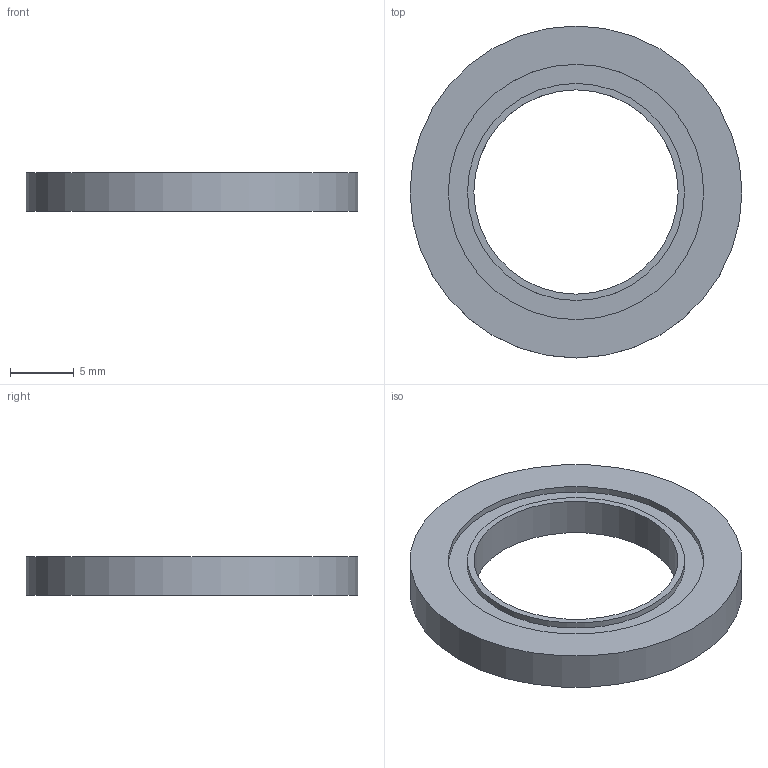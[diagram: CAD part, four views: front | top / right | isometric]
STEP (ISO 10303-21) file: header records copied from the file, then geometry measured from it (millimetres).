
FILE_DESCRIPTION(/* description */ (''),/* implementation_level */ '2;1');
FILE_NAME(/* name */ 'W:\WEBOVKY\Knecht\VD\VD16\VD16.stp',/* time_stamp */ '2021-03-08T12:28:55+01:00',/* author */ ('mkorenek'),/* organization */ (''),/* preprocessor_version */ 'ST-DEVELOPER v18.1',/* originating_system */ 'Autodesk Inventor 2021',/* authorisation */ '');
FILE_SCHEMA (('AUTOMOTIVE_DESIGN { 1 0 10303 214 3 1 1 }'));
Length unit declared in the file: millimetre
Products named in the file (1): VD16
Bounding box: 26 x 26 x 3 mm (x, y, z)
Volume: 946 mm3; surface area: 1113.7 mm2
Topology: 1 solids, 1 shells, 8 faces, 16 edges, 12 vertices
Faces by surface type: plane 4, cylinder 4
Full cylindrical faces by diameter (mm): 16 x1, 17 x1, 20 x1, 26 x1
Entity records: 269 total; most frequent: DIRECTION 46, CARTESIAN_POINT 37, ORIENTED_EDGE 32, AXIS2_PLACEMENT_3D 21, EDGE_CURVE 16, EDGE_LOOP 12, CIRCLE 12, VERTEX_POINT 12
